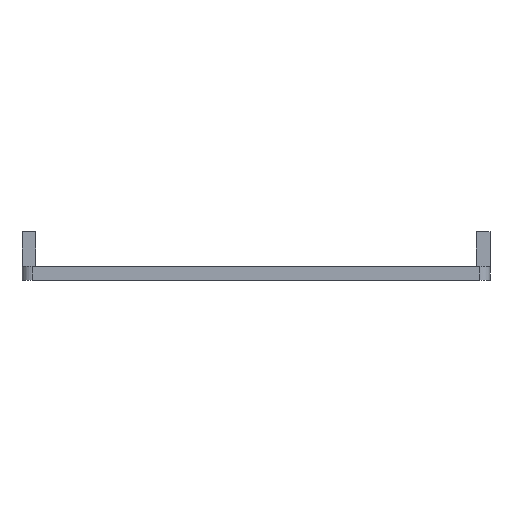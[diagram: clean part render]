
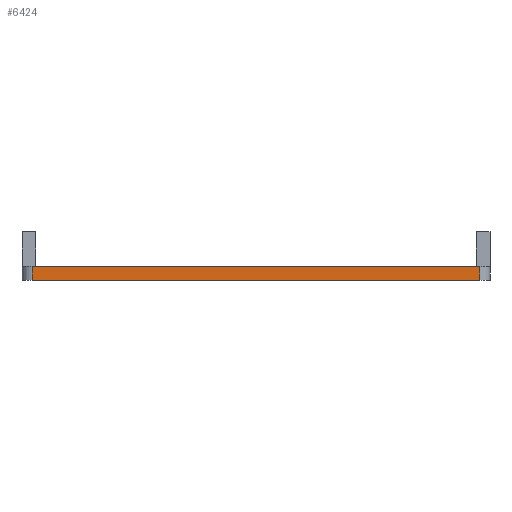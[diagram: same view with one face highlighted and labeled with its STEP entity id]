
A CAD part, left-side view. The second image highlights one B-rep face of the part: STEP entity #6424.
In plain terms, the highlighted planar face has unit normal (-1, 0, 0).
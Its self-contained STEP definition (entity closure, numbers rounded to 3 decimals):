
#44 = PLANE('',#45);
#45 = AXIS2_PLACEMENT_3D('',#46,#47,#48);
#46 = CARTESIAN_POINT('',(0.,0.,0.));
#47 = DIRECTION('',(0.,0.,1.));
#48 = DIRECTION('',(1.,0.,-0.));
#72 = CYLINDRICAL_SURFACE('',#73,3.);
#73 = AXIS2_PLACEMENT_3D('',#74,#75,#76);
#74 = CARTESIAN_POINT('',(-57.,-63.9,0.));
#75 = DIRECTION('',(0.,0.,1.));
#76 = DIRECTION('',(0.,-1.,0.));
#100 = PLANE('',#101);
#101 = AXIS2_PLACEMENT_3D('',#102,#103,#104);
#102 = CARTESIAN_POINT('',(0.,0.,4.));
#103 = DIRECTION('',(0.,0.,1.));
#104 = DIRECTION('',(1.,0.,-0.));
#425 = VERTEX_POINT('',#426);
#426 = CARTESIAN_POINT('',(-60.,-63.9,0.));
#563 = VERTEX_POINT('',#564);
#564 = CARTESIAN_POINT('',(-60.,63.9,0.));
#579 = CYLINDRICAL_SURFACE('',#580,3.);
#580 = AXIS2_PLACEMENT_3D('',#581,#582,#583);
#581 = CARTESIAN_POINT('',(-57.,63.9,0.));
#582 = DIRECTION('',(0.,0.,1.));
#583 = DIRECTION('',(-0.,1.,0.));
#591 = EDGE_CURVE('',#563,#425,#592,.T.);
#592 = SURFACE_CURVE('',#593,(#597,#604),.PCURVE_S1.);
#593 = LINE('',#594,#595);
#594 = CARTESIAN_POINT('',(-60.,66.9,0.));
#595 = VECTOR('',#596,1.);
#596 = DIRECTION('',(0.,-1.,0.));
#597 = PCURVE('',#44,#598);
#598 = DEFINITIONAL_REPRESENTATION('',(#599),#603);
#599 = LINE('',#600,#601);
#600 = CARTESIAN_POINT('',(-60.,66.9));
#601 = VECTOR('',#602,1.);
#602 = DIRECTION('',(0.,-1.));
#603 = ( GEOMETRIC_REPRESENTATION_CONTEXT(2) 
PARAMETRIC_REPRESENTATION_CONTEXT() REPRESENTATION_CONTEXT('2D SPACE',''
  ) );
#604 = PCURVE('',#605,#610);
#605 = PLANE('',#606);
#606 = AXIS2_PLACEMENT_3D('',#607,#608,#609);
#607 = CARTESIAN_POINT('',(-60.,66.9,0.));
#608 = DIRECTION('',(1.,0.,-0.));
#609 = DIRECTION('',(0.,-1.,0.));
#610 = DEFINITIONAL_REPRESENTATION('',(#611),#615);
#611 = LINE('',#612,#613);
#612 = CARTESIAN_POINT('',(0.,0.));
#613 = VECTOR('',#614,1.);
#614 = DIRECTION('',(1.,0.));
#615 = ( GEOMETRIC_REPRESENTATION_CONTEXT(2) 
PARAMETRIC_REPRESENTATION_CONTEXT() REPRESENTATION_CONTEXT('2D SPACE',''
  ) );
#1151 = VERTEX_POINT('',#1152);
#1152 = CARTESIAN_POINT('',(-60.,-63.9,4.));
#1419 = VERTEX_POINT('',#1420);
#1420 = CARTESIAN_POINT('',(-60.,63.9,4.));
#1442 = EDGE_CURVE('',#1419,#1151,#1443,.T.);
#1443 = SURFACE_CURVE('',#1444,(#1448,#1455),.PCURVE_S1.);
#1444 = LINE('',#1445,#1446);
#1445 = CARTESIAN_POINT('',(-60.,66.9,4.));
#1446 = VECTOR('',#1447,1.);
#1447 = DIRECTION('',(0.,-1.,0.));
#1448 = PCURVE('',#100,#1449);
#1449 = DEFINITIONAL_REPRESENTATION('',(#1450),#1454);
#1450 = LINE('',#1451,#1452);
#1451 = CARTESIAN_POINT('',(-60.,66.9));
#1452 = VECTOR('',#1453,1.);
#1453 = DIRECTION('',(0.,-1.));
#1454 = ( GEOMETRIC_REPRESENTATION_CONTEXT(2) 
PARAMETRIC_REPRESENTATION_CONTEXT() REPRESENTATION_CONTEXT('2D SPACE',''
  ) );
#1455 = PCURVE('',#605,#1456);
#1456 = DEFINITIONAL_REPRESENTATION('',(#1457),#1461);
#1457 = LINE('',#1458,#1459);
#1458 = CARTESIAN_POINT('',(0.,-4.));
#1459 = VECTOR('',#1460,1.);
#1460 = DIRECTION('',(1.,0.));
#1461 = ( GEOMETRIC_REPRESENTATION_CONTEXT(2) 
PARAMETRIC_REPRESENTATION_CONTEXT() REPRESENTATION_CONTEXT('2D SPACE',''
  ) );
#6302 = EDGE_CURVE('',#425,#1151,#6303,.T.);
#6303 = SURFACE_CURVE('',#6304,(#6308,#6315),.PCURVE_S1.);
#6304 = LINE('',#6305,#6306);
#6305 = CARTESIAN_POINT('',(-60.,-63.9,0.));
#6306 = VECTOR('',#6307,1.);
#6307 = DIRECTION('',(0.,0.,1.));
#6308 = PCURVE('',#72,#6309);
#6309 = DEFINITIONAL_REPRESENTATION('',(#6310),#6314);
#6310 = LINE('',#6311,#6312);
#6311 = CARTESIAN_POINT('',(-1.571,0.));
#6312 = VECTOR('',#6313,1.);
#6313 = DIRECTION('',(-0.,1.));
#6314 = ( GEOMETRIC_REPRESENTATION_CONTEXT(2) 
PARAMETRIC_REPRESENTATION_CONTEXT() REPRESENTATION_CONTEXT('2D SPACE',''
  ) );
#6315 = PCURVE('',#605,#6316);
#6316 = DEFINITIONAL_REPRESENTATION('',(#6317),#6321);
#6317 = LINE('',#6318,#6319);
#6318 = CARTESIAN_POINT('',(130.8,0.));
#6319 = VECTOR('',#6320,1.);
#6320 = DIRECTION('',(0.,-1.));
#6321 = ( GEOMETRIC_REPRESENTATION_CONTEXT(2) 
PARAMETRIC_REPRESENTATION_CONTEXT() REPRESENTATION_CONTEXT('2D SPACE',''
  ) );
#6424 = ADVANCED_FACE('',(#6425),#605,.F.);
#6425 = FACE_BOUND('',#6426,.F.);
#6426 = EDGE_LOOP('',(#6427,#6428,#6449,#6450));
#6427 = ORIENTED_EDGE('',*,*,#591,.F.);
#6428 = ORIENTED_EDGE('',*,*,#6429,.T.);
#6429 = EDGE_CURVE('',#563,#1419,#6430,.T.);
#6430 = SURFACE_CURVE('',#6431,(#6435,#6442),.PCURVE_S1.);
#6431 = LINE('',#6432,#6433);
#6432 = CARTESIAN_POINT('',(-60.,63.9,0.));
#6433 = VECTOR('',#6434,1.);
#6434 = DIRECTION('',(0.,0.,1.));
#6435 = PCURVE('',#605,#6436);
#6436 = DEFINITIONAL_REPRESENTATION('',(#6437),#6441);
#6437 = LINE('',#6438,#6439);
#6438 = CARTESIAN_POINT('',(3.,0.));
#6439 = VECTOR('',#6440,1.);
#6440 = DIRECTION('',(0.,-1.));
#6441 = ( GEOMETRIC_REPRESENTATION_CONTEXT(2) 
PARAMETRIC_REPRESENTATION_CONTEXT() REPRESENTATION_CONTEXT('2D SPACE',''
  ) );
#6442 = PCURVE('',#579,#6443);
#6443 = DEFINITIONAL_REPRESENTATION('',(#6444),#6448);
#6444 = LINE('',#6445,#6446);
#6445 = CARTESIAN_POINT('',(1.571,0.));
#6446 = VECTOR('',#6447,1.);
#6447 = DIRECTION('',(0.,1.));
#6448 = ( GEOMETRIC_REPRESENTATION_CONTEXT(2) 
PARAMETRIC_REPRESENTATION_CONTEXT() REPRESENTATION_CONTEXT('2D SPACE',''
  ) );
#6449 = ORIENTED_EDGE('',*,*,#1442,.T.);
#6450 = ORIENTED_EDGE('',*,*,#6302,.F.);
